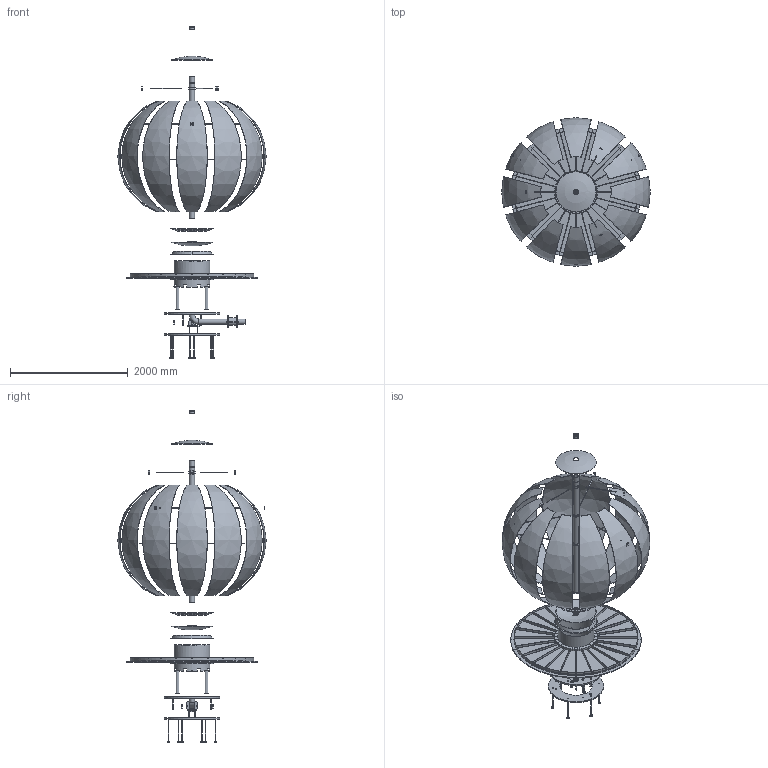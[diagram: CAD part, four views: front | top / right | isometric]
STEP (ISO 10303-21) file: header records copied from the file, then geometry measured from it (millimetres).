
FILE_DESCRIPTION(('Open CASCADE Model'),'2;1');
FILE_NAME('Open CASCADE Shape Model','2026-09-07T11:14:27',('Author'),( 'Open CASCADE'),'Open CASCADE STEP processor 7.9','Open CASCADE 7.9' ,'Unknown');
FILE_SCHEMA(('AUTOMOTIVE_DESIGN { 1 0 10303 214 1 1 1 1 }'));
Length unit declared in the file: millimetre
Products named in the file (91): SPA-Fountain-EXPLODED; P-01a_01; P-01a_02; P-01a_03; P-01a_04; P-01a_05; P-01a_06; P-01a_07; P-01a_08; P-01a_09; P-01a_10; P-01a_11; P-01a_12; P-01b_01; P-01c_01; P-02_01; P-03_01; P-04_01; P-05_01; P-06_01; P-06_02; P-06_03; P-06_04; P-06_05; P-06_06; P-07a_01; P-07a_02; P-07b_01; P-07b_02; P-07b_03; P-08_01; P-08b_01; P-16_01; P-09a_01; P-09b_01; P-09c_01; P-09d_01; P-09e_01; P-10_01; P-11_01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
Assembly tree (90 placements, depth 2):
  SPA-Fountain-EXPLODED
    P-01a_01
    P-01a_02
    P-01a_03
    P-01a_04
    P-01a_05
    P-01a_06
    P-01a_07
    P-01a_08
    P-01a_09
    P-01a_10
    P-01a_11
    P-01a_12
    P-01b_01
    P-01c_01
    P-02_01
    P-03_01
    P-04_01
    P-05_01
    P-06_01
    P-06_02
    P-06_03
    P-06_04
    P-06_05
    P-06_06
    P-07a_01
    P-07a_02
    P-07b_01
    P-07b_02
    P-07b_03
    P-08_01
    P-08b_01
    P-16_01
    P-09a_01
    P-09b_01
    P-09c_01
    P-09d_01
    P-09e_01
    P-10_01
    P-11_01
    P-11_02
    P-11_03
    P-11_04
    P-11_05
    P-11_06
    P-11_07
    P-11_08
    P-11_09
    P-11_10
    P-11_11
    P-11_12
    P-11_13
    P-11_14
    P-11_15
    P-11_16
    P-11_17
    P-11_18
    P-11_19
    P-11_20
    P-11_21
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Bounding box: 2520 x 2520 x 5634 mm (x, y, z)
Volume: 151037014 mm3; surface area: 44919485.8 mm2
Topology: 127 solids, 127 shells, 2412 faces, 5889 edges, 3788 vertices
Faces by surface type: plane 1869, cylinder 472, cone 36, sphere 33, torus 2
Full cylindrical faces by diameter (mm): 5 x85, 6.8 x49, 8.4 x4, 10 x11, 11 x4, 12 x9, 14 x1, 16 x16, 16.5 x1, 17 x6, 17.5 x4, 20 x6, 24 x4, 40 x10, 53.9 x4, 60.3 x4, 75 x4, 77 x1, 78 x1, 78.9 x1, 80 x4, 82 x2, 82.8 x6, 88.9 x6, 90 x5, 96 x1, 109.9 x1, 110 x4, 130 x1, 140 x1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
Entity records: 155080 total; most frequent: CARTESIAN_POINT 31758, DIRECTION 23130, LINE 15025, VECTOR 15025, ORIENTED_EDGE 11874, PCURVE 11778, DEFINITIONAL_REPRESENTATION 11778, EDGE_CURVE 5889
